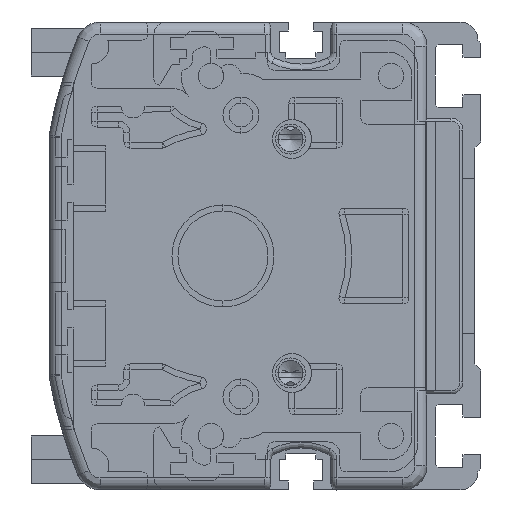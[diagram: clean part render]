
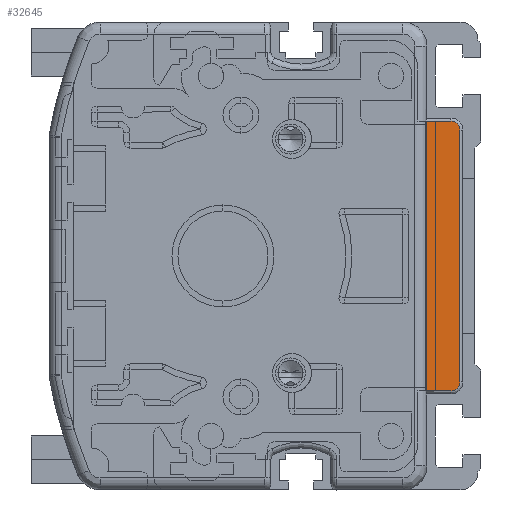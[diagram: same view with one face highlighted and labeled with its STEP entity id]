
A CAD part, left-side view. The second image highlights one B-rep face of the part: STEP entity #32645.
In plain terms, the highlighted planar face has unit normal (-1, 0, 0).
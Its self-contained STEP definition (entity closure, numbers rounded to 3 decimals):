
#27200=DIRECTION('',(0.,0.,-1.));
#27201=VECTOR('',#27200,45.);
#27202=CARTESIAN_POINT('',(-2.,9.268,22.5));
#27203=LINE('',#27202,#27201);
#27235=CARTESIAN_POINT('',(-2.,5.,21.));
#27236=DIRECTION('',(1.,0.,0.));
#27237=DIRECTION('',(0.,0.,1.));
#27238=AXIS2_PLACEMENT_3D('',#27235,#27236,#27237);
#27240=CARTESIAN_POINT('',(-2.,5.,-21.));
#27241=DIRECTION('',(1.,0.,0.));
#27242=DIRECTION('',(0.,-1.,0.));
#27243=AXIS2_PLACEMENT_3D('',#27240,#27241,#27242);
#27249=DIRECTION('',(0.,-1.,0.));
#27250=VECTOR('',#27249,4.268);
#27251=CARTESIAN_POINT('',(-2.,9.268,-22.5));
#27252=LINE('',#27251,#27250);
#27783=DIRECTION('',(0.,0.,1.));
#27784=VECTOR('',#27783,42.);
#27785=CARTESIAN_POINT('',(-2.,3.5,-21.));
#27786=LINE('',#27785,#27784);
#27806=DIRECTION('',(0.,1.,0.));
#27807=VECTOR('',#27806,4.268);
#27808=CARTESIAN_POINT('',(-2.,5.,22.5));
#27809=LINE('',#27808,#27807);
#31092=CARTESIAN_POINT('',(-2.,9.268,22.5));
#31093=CARTESIAN_POINT('',(-2.,9.268,-22.5));
#31094=VERTEX_POINT('',#31092);
#31095=VERTEX_POINT('',#31093);
#31105=CARTESIAN_POINT('',(-2.,5.,-22.5));
#31106=VERTEX_POINT('',#31105);
#31107=CARTESIAN_POINT('',(-2.,3.5,-21.));
#31108=VERTEX_POINT('',#31107);
#31109=CARTESIAN_POINT('',(-2.,3.5,21.));
#31110=VERTEX_POINT('',#31109);
#31111=CARTESIAN_POINT('',(-2.,5.,22.5));
#31112=VERTEX_POINT('',#31111);
#32627=CARTESIAN_POINT('',(-2.,6.384,0.));
#32628=DIRECTION('',(1.,0.,0.));
#32629=DIRECTION('',(0.,0.,-1.));
#32630=AXIS2_PLACEMENT_3D('',#32627,#32628,#32629);
#32631=PLANE('',#32630);
#32633=ORIENTED_EDGE('',*,*,#32632,.F.);
#32634=ORIENTED_EDGE('',*,*,#32606,.F.);
#32636=ORIENTED_EDGE('',*,*,#32635,.F.);
#32638=ORIENTED_EDGE('',*,*,#32637,.T.);
#32640=ORIENTED_EDGE('',*,*,#32639,.F.);
#32642=ORIENTED_EDGE('',*,*,#32641,.T.);
#32643=EDGE_LOOP('',(#32633,#32634,#32636,#32638,#32640,#32642));
#32644=FACE_OUTER_BOUND('',#32643,.F.);
#32645=ADVANCED_FACE('',(#32644),#32631,.F.);
#27239=CIRCLE('',#27238,1.5);
#27244=CIRCLE('',#27243,1.5);
#32606=EDGE_CURVE('',#31094,#31095,#27203,.T.);
#32632=EDGE_CURVE('',#31095,#31106,#27252,.T.);
#32635=EDGE_CURVE('',#31112,#31094,#27809,.T.);
#32637=EDGE_CURVE('',#31112,#31110,#27239,.T.);
#32639=EDGE_CURVE('',#31108,#31110,#27786,.T.);
#32641=EDGE_CURVE('',#31108,#31106,#27244,.T.);
